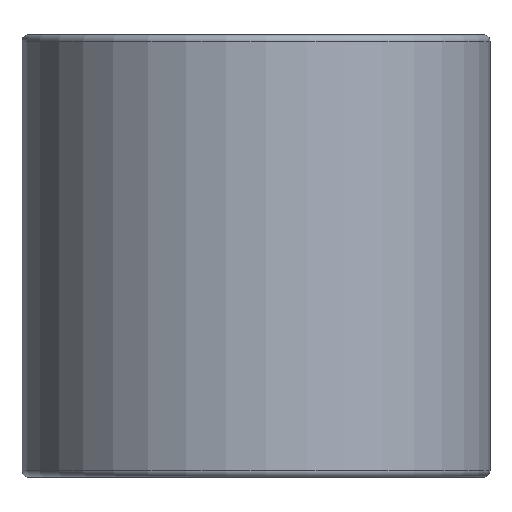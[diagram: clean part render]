
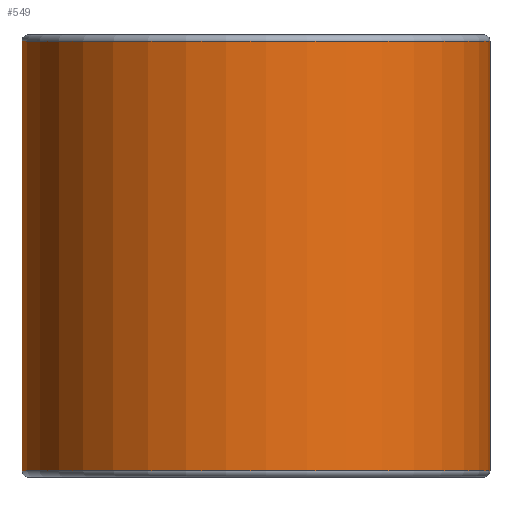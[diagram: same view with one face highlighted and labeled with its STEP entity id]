
A CAD part, front view. The second image highlights one B-rep face of the part: STEP entity #549.
In plain terms, the highlighted cylindrical face has radius 18 mm (diameter 36 mm), a full revolution.
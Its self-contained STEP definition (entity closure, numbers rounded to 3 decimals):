
#549=ADVANCED_FACE('',(#659,#660),#621,.T.);
#621=CYLINDRICAL_SURFACE('',#1428,18.);
#659=FACE_BOUND('',#739,.T.);
#660=FACE_BOUND('',#740,.T.);
#739=EDGE_LOOP('',(#859));
#740=EDGE_LOOP('',(#860));
#859=ORIENTED_EDGE('',*,*,#1215,.T.);
#860=ORIENTED_EDGE('',*,*,#1216,.T.);
#1115=VERTEX_POINT('',#1944);
#1116=VERTEX_POINT('',#1946);
#1215=EDGE_CURVE('',#1115,#1115,#1347,.T.);
#1216=EDGE_CURVE('',#1116,#1116,#1348,.T.);
#1347=CIRCLE('',#1426,18.);
#1348=CIRCLE('',#1427,18.);
#1426=AXIS2_PLACEMENT_3D('',#1943,#1596,#1597);
#1427=AXIS2_PLACEMENT_3D('',#1945,#1598,#1599);
#1428=AXIS2_PLACEMENT_3D('',#1947,#1600,#1601);
#1596=DIRECTION('',(0.,0.,-1.));
#1597=DIRECTION('',(1.,0.,0.));
#1598=DIRECTION('',(0.,0.,1.));
#1599=DIRECTION('',(1.,0.,0.));
#1600=DIRECTION('',(0.,0.,-1.));
#1601=DIRECTION('',(-1.,0.,0.));
#1943=CARTESIAN_POINT('',(0.,0.,33.5));
#1944=CARTESIAN_POINT('',(18.,0.,33.5));
#1945=CARTESIAN_POINT('',(0.,0.,0.5));
#1946=CARTESIAN_POINT('',(18.,0.,0.5));
#1947=CARTESIAN_POINT('',(0.,0.,34.));
